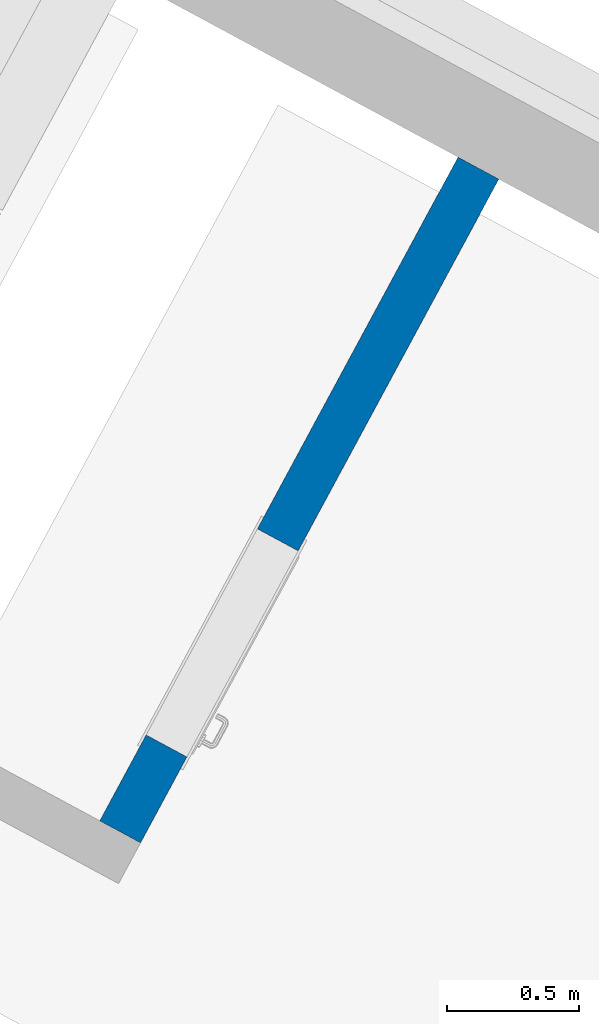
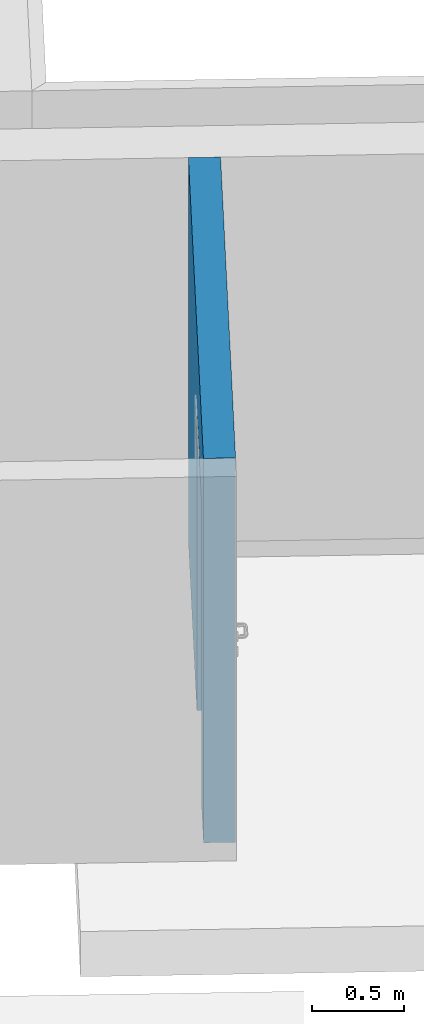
# One storey, part 2 of 7: 1 wall, 1 opening.
"""IFC2X3 building model written with IfcOpenShell, lengths in metres."""

from ifc_helpers import new_model, entity, si_unit, converted_unit, derived_unit, money_unit, direction, frame, origin_with_axes, origin_2d_with_axis, place, context, subcontext, project, spatial, rectangle, extrude, faceted_brep, material, type_object, element, save


model = new_model("IFC2X3")

# Units and contexts
model_context = context("Model", 3, precision=1e-05, world=origin_with_axes(), true_north=direction((0.0, 1.0)))
body_context = subcontext(model_context, "Body", "Model", "MODEL_VIEW")
ifc_project = project(units=[si_unit("LENGTHUNIT", "METRE"), si_unit("AREAUNIT", "SQUARE_METRE"), si_unit("VOLUMEUNIT", "CUBIC_METRE"), converted_unit("PLANEANGLEUNIT", "DEGREE", entity("IfcPlaneAngleMeasure", 0.0174532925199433), si_unit("PLANEANGLEUNIT", "RADIAN"), dimensions=[0, 0, 0, 0, 0, 0, 0]), money_unit("EUR"), converted_unit("TIMEUNIT", "Year", entity("IfcTimeMeasure", 31556926.0), si_unit("TIMEUNIT", "SECOND"), dimensions=[0, 0, 1, 0, 0, 0, 0]), si_unit("MASSUNIT", "GRAM", prefix="KILO"), si_unit("THERMODYNAMICTEMPERATUREUNIT", "DEGREE_CELSIUS"), si_unit("LUMINOUSINTENSITYUNIT", "LUMEN"), si_unit("ENERGYUNIT", "JOULE", prefix="MEGA"), derived_unit("THERMALCONDUCTANCEUNIT", [(si_unit("POWERUNIT", "WATT"), 1), (si_unit("LENGTHUNIT", "METRE"), -1), (si_unit("THERMODYNAMICTEMPERATUREUNIT", "KELVIN"), -1)]), derived_unit("SPECIFICHEATCAPACITYUNIT", [(si_unit("ENERGYUNIT", "JOULE"), 1), (si_unit("MASSUNIT", "GRAM", prefix="KILO"), -1), (si_unit("THERMODYNAMICTEMPERATUREUNIT", "KELVIN"), -1)]), derived_unit("MASSDENSITYUNIT", [(si_unit("MASSUNIT", "GRAM", prefix="KILO"), 1), (si_unit("VOLUMEUNIT", "CUBIC_METRE"), -1)])], contexts=[model_context])

# Site, building, storey
site_placement = place(None, frame((-3.949935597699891, 1.740105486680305, 0.0), z_axis=(0.0, 0.0, 1.0), x_axis=(0.8799804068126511, -0.475009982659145, 0.0)))
site = spatial("IfcSite", under=ifc_project, at=site_placement, Name="Gelände", CompositionType="ELEMENT")
building_placement = place(site_placement, origin_with_axes())
building = spatial("IfcBuilding", under=site, at=building_placement, Name="Gebäude", CompositionType="ELEMENT")
storey_placement = place(building_placement, frame((0.0, 0.0, -2.98), z_axis=(0.0, 0.0, 1.0), x_axis=(1.0, 0.0, 0.0)))
storey = spatial("IfcBuildingStorey", under=building, at=storey_placement, Name="Kellergeschoss", CompositionType="ELEMENT", Elevation=-2.98)

# Wall, opening
ifc_material = material(Name="_SIWH - MW Kalksandstein")
wall_type = type_object("IfcWallType", Name="_SIWH - WI | KS 17,5 | 17,5cm 175", PredefinedType="NOTDEFINED")
wall_placement = place(storey_placement, frame((11.76739416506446, 19.20032037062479, 0.0), z_axis=(0.0, 0.0, 1.0), x_axis=(4.657984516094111e-06, -0.9999999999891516, 0.0)))
wall = element("IfcWall", 1, at=wall_placement, inside=storey, type_object=wall_type, material=ifc_material, Name="I-Wand021", context=body_context, shape_type="Brep", body=[
    faceted_brep([(2.781693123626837, 0.1749999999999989, 0.0), (2.781693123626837, 0.1749999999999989, 2.01), (1.896693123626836, 0.1749999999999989, 2.01), (1.896693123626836, 0.1749999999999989, 0.0), (0.3000008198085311, 0.1749999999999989, 0.0), (0.3000008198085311, 0.1749999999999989, 2.55), (3.150624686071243, 0.1749999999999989, 2.55), (3.150624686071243, 0.1749999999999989, 0.0), (2.781693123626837, 0.0, 0.0), (2.781693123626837, 0.0, 2.01), (1.896693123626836, 0.0, 2.01), (1.896693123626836, 0.0, 0.0), (0.3000000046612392, 0.0, 0.0), (0.3000000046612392, 0.0, 2.55), (3.150623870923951, 0.0, 2.55), (3.150623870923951, 0.0, 0.0)], [[[0, 1, 2, 3, 4, 5, 6, 7]], [[1, 0, 8, 9]], [[2, 1, 9, 10]], [[3, 2, 10, 11]], [[3, 11, 12, 4]], [[4, 12, 13, 5]], [[6, 5, 13, 14]], [[7, 6, 14, 15]], [[8, 0, 7, 15]], [[9, 8, 15, 14, 13, 12, 11, 10]]]),
])
opening_placement = place(wall_placement, frame((2.339193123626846, 0.0, 0.0), z_axis=(0.0, 0.0, 1.0), x_axis=(1.0, 0.0, 0.0)))
element("IfcOpeningElement", 2, at=opening_placement, cuts=wall, Name="Tür-017", context=body_context, shape_type="SweptSolid", body=[
    extrude(rectangle(XDim=0.8850000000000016, YDim=2.01, at=origin_2d_with_axis()), frame((0.0, -0.1750000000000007, 1.005), z_axis=(0.0, -1.0, 0.0), x_axis=(-1.0, 0.0, 0.0)), (0.0, 0.0, -1.0), 0.5249999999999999),
])

save(model, "model.ifc")
